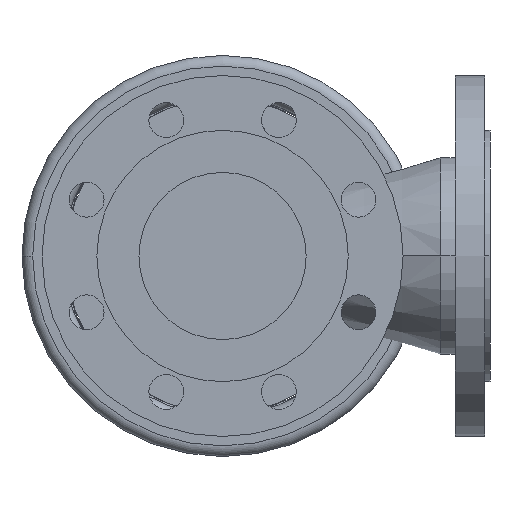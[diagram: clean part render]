
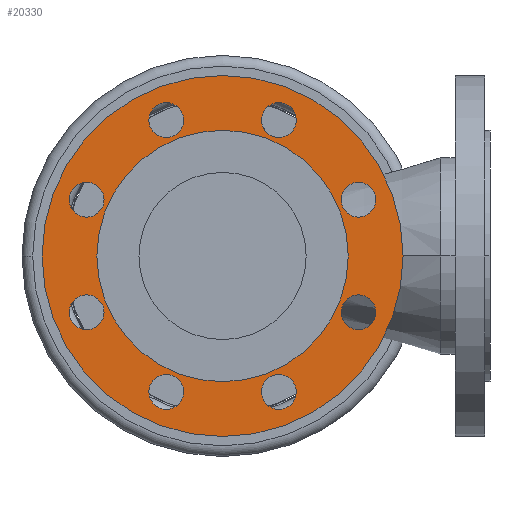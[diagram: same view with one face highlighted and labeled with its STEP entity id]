
A CAD part, front view. The second image highlights one B-rep face of the part: STEP entity #20330.
In plain terms, the highlighted planar face has unit normal (0, -1, 0).
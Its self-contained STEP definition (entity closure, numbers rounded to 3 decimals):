
#610=CARTESIAN_POINT('',(-94.,4.,0.));
#620=VERTEX_POINT('',#610);
#780=CARTESIAN_POINT('',(94.,4.,0.));
#790=VERTEX_POINT('',#780);
#820=CARTESIAN_POINT('',(0.,4.,0.));
#830=DIRECTION('',(0.,-1.,0.));
#840=DIRECTION('',(-1.,0.,0.));
#850=AXIS2_PLACEMENT_3D('',#820,#830,#840);
#860=CIRCLE('',#850,94.);
#870=EDGE_CURVE('',#620,#790,#860,.T.);
#8370=CARTESIAN_POINT('',(135.,4.,0.));
#8380=VERTEX_POINT('',#8370);
#8460=CARTESIAN_POINT('',(-135.,4.,0.));
#8470=VERTEX_POINT('',#8460);
#8500=CARTESIAN_POINT('',(0.,4.,0.));
#8510=DIRECTION('',(0.,1.,0.));
#8520=DIRECTION('',(1.,0.,0.));
#8530=AXIS2_PLACEMENT_3D('',#8500,#8510,#8520);
#8540=CIRCLE('',#8530,135.);
#8550=EDGE_CURVE('',#8380,#8470,#8540,.T.);
#8760=CARTESIAN_POINT('',(88.627,4.,-42.095));
#8770=VERTEX_POINT('',#8760);
#8800=CARTESIAN_POINT('',(101.627,4.,-42.095));
#8810=DIRECTION('',(0.,1.,0.));
#8820=DIRECTION('',(1.,0.,0.));
#8830=AXIS2_PLACEMENT_3D('',#8800,#8810,#8820);
#8840=CIRCLE('',#8830,13.);
#8850=CARTESIAN_POINT('',(114.627,4.,-42.095));
#8860=VERTEX_POINT('',#8850);
#8870=EDGE_CURVE('',#8770,#8860,#8840,.T.);
#9150=CARTESIAN_POINT('',(114.627,4.,42.095));
#9160=VERTEX_POINT('',#9150);
#9190=CARTESIAN_POINT('',(101.627,4.,42.095));
#9200=DIRECTION('',(0.,1.,0.));
#9210=DIRECTION('',(1.,0.,0.));
#9220=AXIS2_PLACEMENT_3D('',#9190,#9200,#9210);
#9230=CIRCLE('',#9220,13.);
#9240=CARTESIAN_POINT('',(88.627,4.,42.095));
#9250=VERTEX_POINT('',#9240);
#9260=EDGE_CURVE('',#9160,#9250,#9230,.T.);
#9540=CARTESIAN_POINT('',(29.095,4.,-101.627));
#9550=VERTEX_POINT('',#9540);
#9630=CARTESIAN_POINT('',(55.095,4.,-101.627));
#9640=VERTEX_POINT('',#9630);
#9670=CARTESIAN_POINT('',(42.095,4.,-101.627));
#9680=DIRECTION('',(0.,1.,0.));
#9690=DIRECTION('',(1.,0.,0.));
#9700=AXIS2_PLACEMENT_3D('',#9670,#9680,#9690);
#9710=CIRCLE('',#9700,13.);
#9720=EDGE_CURVE('',#9640,#9550,#9710,.T.);
#9930=CARTESIAN_POINT('',(29.095,4.,101.627));
#9940=VERTEX_POINT('',#9930);
#10020=CARTESIAN_POINT('',(55.095,4.,101.627));
#10030=VERTEX_POINT('',#10020);
#10060=CARTESIAN_POINT('',(42.095,4.,101.627));
#10070=DIRECTION('',(0.,1.,0.));
#10080=DIRECTION('',(1.,0.,0.));
#10090=AXIS2_PLACEMENT_3D('',#10060,#10070,#10080);
#10100=CIRCLE('',#10090,13.);
#10110=EDGE_CURVE('',#10030,#9940,#10100,.T.);
#10320=CARTESIAN_POINT('',(-29.095,4.,-101.627));
#10330=VERTEX_POINT('',#10320);
#10360=CARTESIAN_POINT('',(-42.095,4.,-101.627));
#10370=DIRECTION('',(0.,1.,0.));
#10380=DIRECTION('',(1.,0.,0.));
#10390=AXIS2_PLACEMENT_3D('',#10360,#10370,#10380);
#10400=CIRCLE('',#10390,13.);
#10410=CARTESIAN_POINT('',(-55.095,4.,-101.627));
#10420=VERTEX_POINT('',#10410);
#10430=EDGE_CURVE('',#10330,#10420,#10400,.T.);
#10710=CARTESIAN_POINT('',(-29.095,4.,101.627));
#10720=VERTEX_POINT('',#10710);
#10750=CARTESIAN_POINT('',(-42.095,4.,101.627));
#10760=DIRECTION('',(0.,1.,0.));
#10770=DIRECTION('',(1.,0.,0.));
#10780=AXIS2_PLACEMENT_3D('',#10750,#10760,#10770);
#10790=CIRCLE('',#10780,13.);
#10800=CARTESIAN_POINT('',(-55.095,4.,101.627));
#10810=VERTEX_POINT('',#10800);
#10820=EDGE_CURVE('',#10720,#10810,#10790,.T.);
#11100=CARTESIAN_POINT('',(-88.627,4.,-42.095));
#11110=VERTEX_POINT('',#11100);
#11190=CARTESIAN_POINT('',(-114.627,4.,-42.095));
#11200=VERTEX_POINT('',#11190);
#11230=CARTESIAN_POINT('',(-101.627,4.,-42.095));
#11240=DIRECTION('',(0.,1.,0.));
#11250=DIRECTION('',(1.,0.,0.));
#11260=AXIS2_PLACEMENT_3D('',#11230,#11240,#11250);
#11270=CIRCLE('',#11260,13.);
#11280=EDGE_CURVE('',#11200,#11110,#11270,.T.);
#11490=CARTESIAN_POINT('',(-114.627,4.,42.095));
#11500=VERTEX_POINT('',#11490);
#11580=CARTESIAN_POINT('',(-88.627,4.,42.095));
#11590=VERTEX_POINT('',#11580);
#11620=CARTESIAN_POINT('',(-101.627,4.,42.095));
#11630=DIRECTION('',(0.,1.,0.));
#11640=DIRECTION('',(1.,0.,0.));
#11650=AXIS2_PLACEMENT_3D('',#11620,#11630,#11640);
#11660=CIRCLE('',#11650,13.);
#11670=EDGE_CURVE('',#11590,#11500,#11660,.T.);
#19780=CARTESIAN_POINT('',(0.,4.,0.));
#19790=DIRECTION('',(0.,1.,0.));
#19800=DIRECTION('',(0.,0.,1.));
#19810=AXIS2_PLACEMENT_3D('',#19780,#19790,#19800);
#19820=PLANE('',#19810);
#19830=EDGE_CURVE('',#11500,#11590,#11660,.T.);
#19840=ORIENTED_EDGE('',*,*,#19830,.T.);
#19850=ORIENTED_EDGE('',*,*,#11670,.T.);
#19860=EDGE_LOOP('',(#19850,#19840));
#19870=FACE_BOUND('',#19860,.T.);
#19880=EDGE_CURVE('',#11110,#11200,#11270,.T.);
#19890=ORIENTED_EDGE('',*,*,#19880,.T.);
#19900=ORIENTED_EDGE('',*,*,#11280,.T.);
#19910=EDGE_LOOP('',(#19900,#19890));
#19920=FACE_BOUND('',#19910,.T.);
#19930=EDGE_CURVE('',#10810,#10720,#10790,.T.);
#19940=ORIENTED_EDGE('',*,*,#19930,.T.);
#19950=ORIENTED_EDGE('',*,*,#10820,.T.);
#19960=EDGE_LOOP('',(#19950,#19940));
#19970=FACE_BOUND('',#19960,.T.);
#19980=ORIENTED_EDGE('',*,*,#10430,.T.);
#19990=EDGE_CURVE('',#10420,#10330,#10400,.T.);
#20000=ORIENTED_EDGE('',*,*,#19990,.T.);
#20010=EDGE_LOOP('',(#20000,#19980));
#20020=FACE_BOUND('',#20010,.T.);
#20030=EDGE_CURVE('',#9940,#10030,#10100,.T.);
#20040=ORIENTED_EDGE('',*,*,#20030,.T.);
#20050=ORIENTED_EDGE('',*,*,#10110,.T.);
#20060=EDGE_LOOP('',(#20050,#20040));
#20070=FACE_BOUND('',#20060,.T.);
#20080=EDGE_CURVE('',#9550,#9640,#9710,.T.);
#20090=ORIENTED_EDGE('',*,*,#20080,.T.);
#20100=ORIENTED_EDGE('',*,*,#9720,.T.);
#20110=EDGE_LOOP('',(#20100,#20090));
#20120=FACE_BOUND('',#20110,.T.);
#20130=EDGE_CURVE('',#9250,#9160,#9230,.T.);
#20140=ORIENTED_EDGE('',*,*,#20130,.T.);
#20150=ORIENTED_EDGE('',*,*,#9260,.T.);
#20160=EDGE_LOOP('',(#20150,#20140));
#20170=FACE_BOUND('',#20160,.T.);
#20180=EDGE_CURVE('',#8860,#8770,#8840,.T.);
#20190=ORIENTED_EDGE('',*,*,#20180,.T.);
#20200=ORIENTED_EDGE('',*,*,#8870,.T.);
#20210=EDGE_LOOP('',(#20200,#20190));
#20220=FACE_BOUND('',#20210,.T.);
#20230=EDGE_CURVE('',#8470,#8380,#8540,.T.);
#20240=ORIENTED_EDGE('',*,*,#20230,.F.);
#20250=ORIENTED_EDGE('',*,*,#8550,.F.);
#20260=EDGE_LOOP('',(#20250,#20240));
#20270=FACE_OUTER_BOUND('',#20260,.T.);
#20280=EDGE_CURVE('',#790,#620,#860,.T.);
#20290=ORIENTED_EDGE('',*,*,#20280,.F.);
#20300=ORIENTED_EDGE('',*,*,#870,.F.);
#20310=EDGE_LOOP('',(#20300,#20290));
#20320=FACE_BOUND('',#20310,.T.);
#20330=ADVANCED_FACE('',(#19870,#19920,#19970,#20020,#20070,#20120,
#20170,#20220,#20270,#20320),#19820,.F.);
